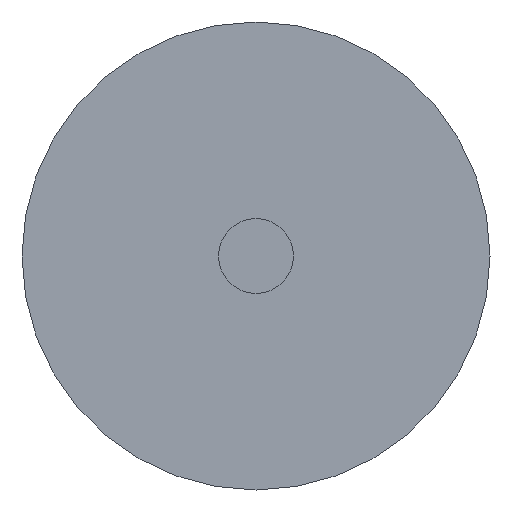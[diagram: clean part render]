
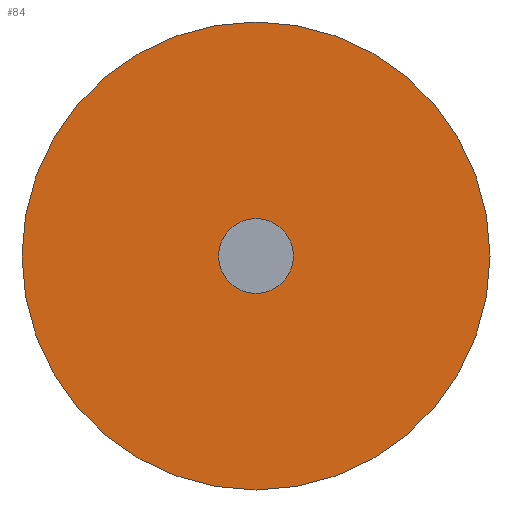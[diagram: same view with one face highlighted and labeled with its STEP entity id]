
A CAD part, front view. The second image highlights one B-rep face of the part: STEP entity #84.
In plain terms, the highlighted planar face has unit normal (0, -1, 0).
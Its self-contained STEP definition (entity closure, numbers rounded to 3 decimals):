
#84 = ADVANCED_FACE( '', ( #225, #226 ), #227, .F. );
#225 = FACE_BOUND( '', #491, .T. );
#226 = FACE_OUTER_BOUND( '', #492, .T. );
#227 = PLANE( '', #493 );
#491 = EDGE_LOOP( '', ( #907 ) );
#492 = EDGE_LOOP( '', ( #908 ) );
#493 = AXIS2_PLACEMENT_3D( '', #909, #910, #911 );
#907 = ORIENTED_EDGE( '', *, *, #1961, .F. );
#908 = ORIENTED_EDGE( '', *, *, #1962, .T. );
#909 = CARTESIAN_POINT( '', ( 25., 0., 0. ) );
#910 = DIRECTION( '', ( 0., 1., 0. ) );
#911 = DIRECTION( '', ( 0., 0., 1. ) );
#1961 = EDGE_CURVE( '', #2440, #2440, #2441, .T. );
#1962 = EDGE_CURVE( '', #2442, #2442, #2443, .T. );
#2440 = VERTEX_POINT( '', #3628 );
#2441 = CIRCLE( '', #3629, 4. );
#2442 = VERTEX_POINT( '', #3630 );
#2443 = CIRCLE( '', #3631, 25. );
#3628 = CARTESIAN_POINT( '', ( 0., 0., -4. ) );
#3629 = AXIS2_PLACEMENT_3D( '', #4182, #4183, #4184 );
#3630 = CARTESIAN_POINT( '', ( 0., 0., -25. ) );
#3631 = AXIS2_PLACEMENT_3D( '', #4185, #4186, #4187 );
#4182 = CARTESIAN_POINT( '', ( 0., 0., 0. ) );
#4183 = DIRECTION( '', ( 0., -1., 0. ) );
#4184 = DIRECTION( '', ( 0., 0., -1. ) );
#4185 = CARTESIAN_POINT( '', ( 0., 0., 0. ) );
#4186 = DIRECTION( '', ( 0., -1., 0. ) );
#4187 = DIRECTION( '', ( 0., 0., -1. ) );
